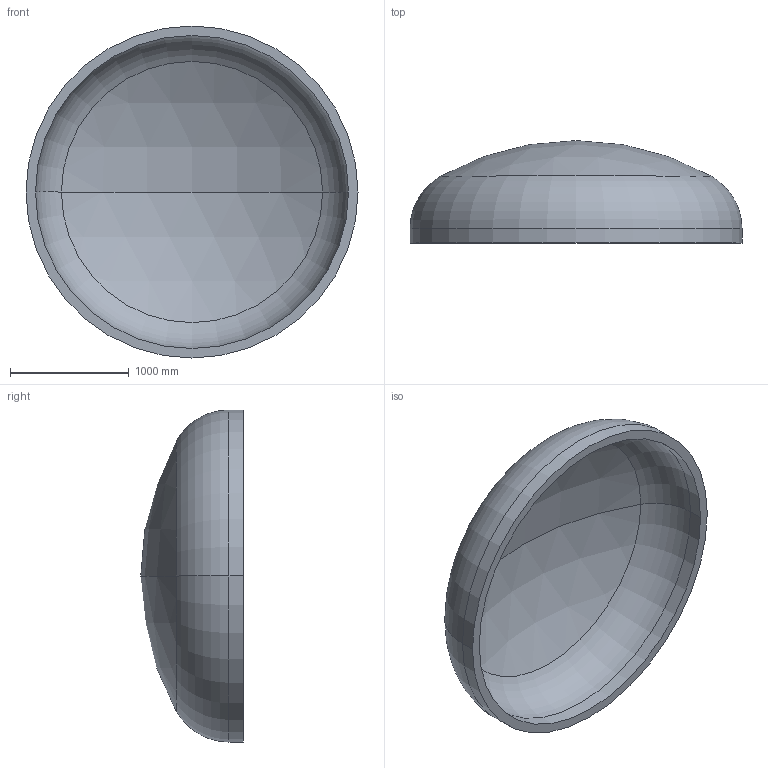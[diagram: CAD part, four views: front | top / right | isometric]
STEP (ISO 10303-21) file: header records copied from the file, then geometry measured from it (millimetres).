
FILE_DESCRIPTION (( 'STEP AP203' ), '1' );
FILE_NAME ('DIN 28013 Korbbogenform_-_Boden DIN 28013 - 2800 x 120 - I - s=80.step', '2016-07-01T17:12:11', ( '' ), ( '' ), 'SwSTEP 2.0', 'SolidWorks 2013', '' );
FILE_SCHEMA (( 'CONFIG_CONTROL_DESIGN' ));
Length unit declared in the file: millimetre
Products named in the file (1): DIN 28013 Korbbogenform_-_Boden DIN 28013 - 2800 x 120 - I - s=80
Bounding box: 2800 x 863.93 x 2800 mm (x, y, z)
Volume: 738888504.6 mm3; surface area: 19169221.4 mm2
Topology: 1 solids, 1 shells, 13 faces, 24 edges, 14 vertices
Faces by surface type: torus 4, cylinder 4, sphere 4, plane 1
Entity records: 407 total; most frequent: DIRECTION 72, CARTESIAN_POINT 52, ORIENTED_EDGE 48, AXIS2_PLACEMENT_3D 34, EDGE_CURVE 24, CIRCLE 20, EDGE_LOOP 14, VERTEX_POINT 14
